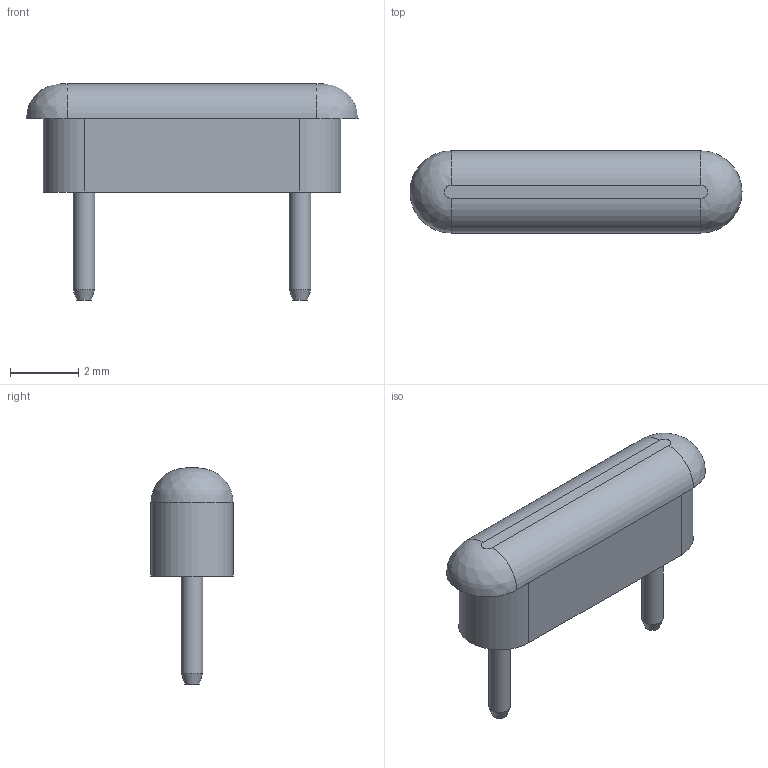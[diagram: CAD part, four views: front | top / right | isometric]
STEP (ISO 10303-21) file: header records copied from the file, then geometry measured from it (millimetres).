
FILE_DESCRIPTION(/* description */ (''),/* implementation_level */ '2;1');
FILE_NAME(/* name */ '\\Snap1\dwgs\Customer 3D Models\461\461-2251-02 Customer model.stp',/* time_stamp */ '2016-12-21T14:14:21+00:00',/* author */ ('paulk'),/* organization */ (''),/* preprocessor_version */ 'ST-DEVELOPER v15.2',/* originating_system */ 'Autodesk Inventor 2014',/* authorisation */ '');
FILE_SCHEMA (('CONFIG_CONTROL_DESIGN'));
Length unit declared in the file: millimetre
Products named in the file (1): 461-2251-02 Customer model
Bounding box: 9.75 x 2.41 x 6.35 mm (x, y, z)
Volume: 62.8 mm3; surface area: 112.9 mm2
Topology: 1 solids, 1 shells, 18 faces, 36 edges, 22 vertices
Faces by surface type: plane 8, cylinder 6, cone 2, bspline 2
Full cylindrical faces by diameter (mm): 0.635 x2
Entity records: 523 total; most frequent: CARTESIAN_POINT 101, DIRECTION 84, ORIENTED_EDGE 64, AXIS2_PLACEMENT_3D 35, EDGE_CURVE 32, EDGE_LOOP 24, VERTEX_POINT 22, STYLED_ITEM 19
